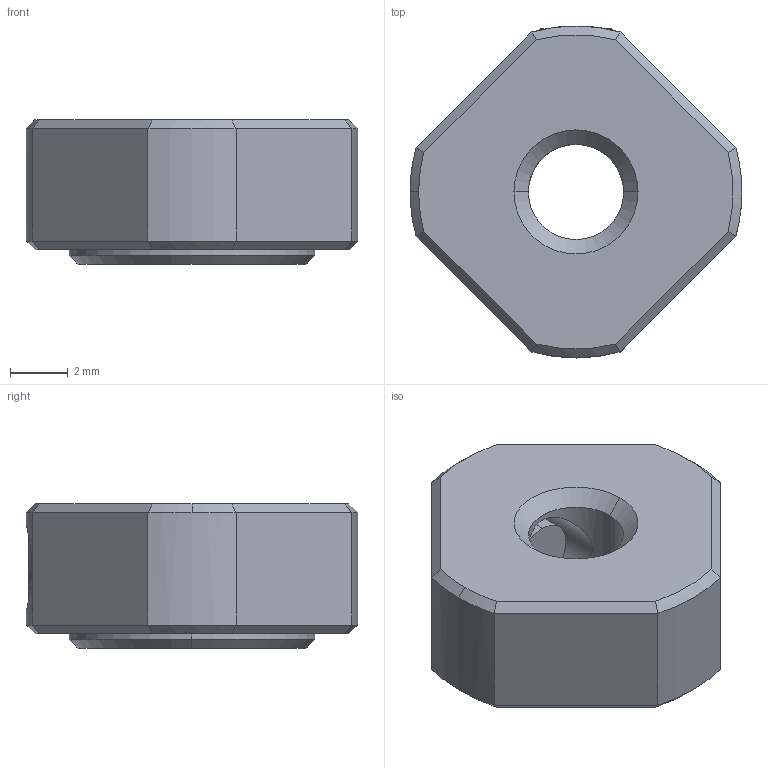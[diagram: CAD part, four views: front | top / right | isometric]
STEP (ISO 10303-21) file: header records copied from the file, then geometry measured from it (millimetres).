
FILE_DESCRIPTION (( 'STEP AP203' ), '1' );
FILE_NAME ('RN04.STEP', '2009-05-27T00:11:54', ( '冠犁泅' ), ( '俺惯何' ), 'SwSTEP 2.0', 'SolidWorks 2007', '' );
FILE_SCHEMA (( 'CONFIG_CONTROL_DESIGN' ));
Length unit declared in the file: millimetre
Products named in the file (4): SET PIECE_白2.3x1_晦獄 撲薑; Socket Set Screw Flat Point_AM_B18.3.6M - M3 x 0.5 x 3 Hex Socket Flat Pt. SS --N_B18.3.6M - M3 x 0.5 x 3 Hex Socket Flat Pt. SS --N; RN04_NUT_晦獄 撲薑; RN04
Assembly tree (3 placements, depth 2):
  RN04
    SET PIECE_白2.3x1_晦獄 撲薑
    Socket Set Screw Flat Point_AM_B18.3.6M - M3 x 0.5 x 3 Hex Socket Flat Pt. SS --N_B18.3.6M - M3 x 0.5 x 3 Hex Socket Flat Pt. SS --N
    RN04_NUT_晦獄 撲薑
Bounding box: 11.5 x 11.5 x 5 mm (x, y, z)
Volume: 385.2 mm3; surface area: 455.8 mm2
Topology: 3 solids, 3 shells, 61 faces, 132 edges, 79 vertices
Faces by surface type: plane 26, cone 20, cylinder 15
Entity records: 2179 total; most frequent: CARTESIAN_POINT 438, DIRECTION 293, ORIENTED_EDGE 264, EDGE_CURVE 132, AXIS2_PLACEMENT_3D 114, VERTEX_POINT 79, EDGE_LOOP 67, VECTOR 65
